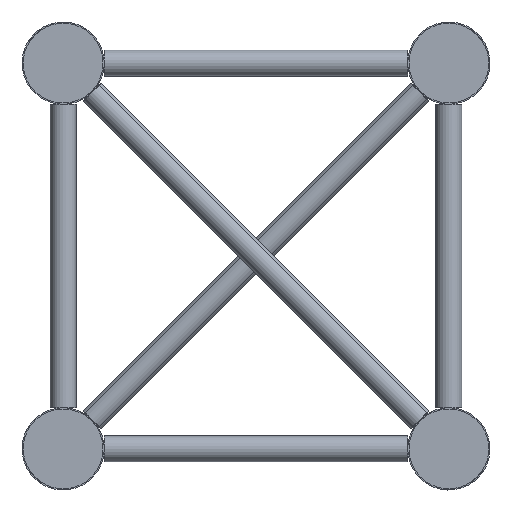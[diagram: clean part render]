
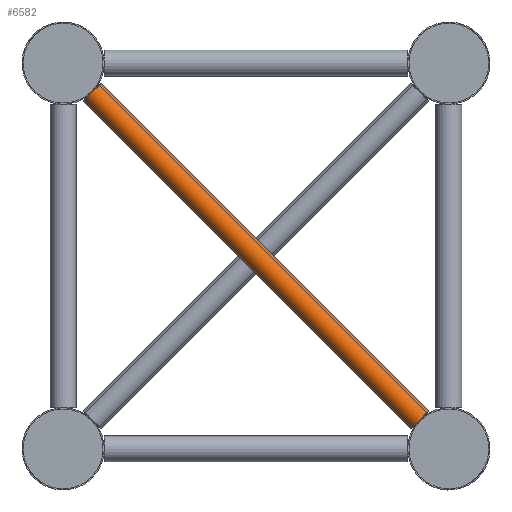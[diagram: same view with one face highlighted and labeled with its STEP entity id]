
A CAD part, left-side view. The second image highlights one B-rep face of the part: STEP entity #6582.
In plain terms, the highlighted cylindrical face has radius 8 mm (diameter 16 mm), a full revolution.
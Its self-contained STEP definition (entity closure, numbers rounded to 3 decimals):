
#359=B_SPLINE_CURVE_WITH_KNOTS('',3,(#10532,#10533,#10534,#10535,#10536,
#10537),.UNSPECIFIED.,.F.,.F.,(4,2,4),(1.187,1.214,
1.242),.UNSPECIFIED.);
#361=B_SPLINE_CURVE_WITH_KNOTS('',3,(#10550,#10551,#10552,#10553,#10554,
#10555),.UNSPECIFIED.,.F.,.F.,(4,2,4),(3.616,3.643,
3.67),.UNSPECIFIED.);
#370=B_SPLINE_CURVE_WITH_KNOTS('',3,(#10754,#10755,#10756,#10757,#10758,
#10759),.UNSPECIFIED.,.F.,.F.,(4,2,4),(1.187,1.214,
1.242),.UNSPECIFIED.);
#371=B_SPLINE_CURVE_WITH_KNOTS('',3,(#10763,#10764,#10765,#10766,#10767,
#10768),.UNSPECIFIED.,.F.,.F.,(4,2,4),(3.616,3.643,
3.67),.UNSPECIFIED.);
#830=CYLINDRICAL_SURFACE('',#7160,8.);
#1052=FACE_BOUND('',#1964,.T.);
#1341=FACE_OUTER_BOUND('',#1963,.T.);
#1963=EDGE_LOOP('',(#4260,#4261,#4262,#4263));
#1964=EDGE_LOOP('',(#4264,#4265,#4266,#4267));
#2661=CIRCLE('',#7159,8.);
#2662=CIRCLE('',#7161,8.);
#2663=CIRCLE('',#7162,8.);
#2664=CIRCLE('',#7163,8.);
#2901=VERTEX_POINT('',#10529);
#2902=VERTEX_POINT('',#10531);
#2905=VERTEX_POINT('',#10547);
#2906=VERTEX_POINT('',#10549);
#2966=VERTEX_POINT('',#10752);
#2967=VERTEX_POINT('',#10753);
#2968=VERTEX_POINT('',#10760);
#2969=VERTEX_POINT('',#10762);
#3365=EDGE_CURVE('',#2902,#2901,#359,.T.);
#3369=EDGE_CURVE('',#2906,#2905,#361,.T.);
#3409=EDGE_CURVE('',#2901,#2906,#2661,.T.);
#3410=EDGE_CURVE('',#2966,#2967,#370,.T.);
#3411=EDGE_CURVE('',#2967,#2968,#2662,.T.);
#3412=EDGE_CURVE('',#2968,#2969,#371,.T.);
#3413=EDGE_CURVE('',#2969,#2966,#2663,.T.);
#3414=EDGE_CURVE('',#2905,#2902,#2664,.T.);
#4260=ORIENTED_EDGE('',*,*,#3410,.T.);
#4261=ORIENTED_EDGE('',*,*,#3411,.T.);
#4262=ORIENTED_EDGE('',*,*,#3412,.T.);
#4263=ORIENTED_EDGE('',*,*,#3413,.T.);
#4264=ORIENTED_EDGE('',*,*,#3365,.T.);
#4265=ORIENTED_EDGE('',*,*,#3409,.T.);
#4266=ORIENTED_EDGE('',*,*,#3369,.T.);
#4267=ORIENTED_EDGE('',*,*,#3414,.T.);
#6582=ADVANCED_FACE('',(#1341,#1052),#830,.T.);
#7159=AXIS2_PLACEMENT_3D('',#10750,#8319,#8320);
#7160=AXIS2_PLACEMENT_3D('',#10751,#8321,#8322);
#7161=AXIS2_PLACEMENT_3D('',#10761,#8323,#8324);
#7162=AXIS2_PLACEMENT_3D('',#10769,#8325,#8326);
#7163=AXIS2_PLACEMENT_3D('',#10770,#8327,#8328);
#8319=DIRECTION('center_axis',(0.,-0.707,
-0.707));
#8320=DIRECTION('ref_axis',(0.,0.707,-0.707));
#8321=DIRECTION('center_axis',(0.,0.707,
0.707));
#8322=DIRECTION('ref_axis',(0.,0.707,-0.707));
#8323=DIRECTION('center_axis',(0.,0.707,
0.707));
#8324=DIRECTION('ref_axis',(0.,0.707,-0.707));
#8325=DIRECTION('center_axis',(0.,0.707,
0.707));
#8326=DIRECTION('ref_axis',(0.,0.707,-0.707));
#8327=DIRECTION('center_axis',(0.,-0.707,
-0.707));
#8328=DIRECTION('ref_axis',(0.,0.707,-0.707));
#10529=CARTESIAN_POINT('',(67.995,220.776,-17.836));
#10531=CARTESIAN_POINT('',(67.995,221.164,-18.224));
#10532=CARTESIAN_POINT('Ctrl Pts',(67.995,221.164,-18.224));
#10533=CARTESIAN_POINT('Ctrl Pts',(67.998,221.098,-18.16));
#10534=CARTESIAN_POINT('Ctrl Pts',(68.,221.033,-18.096));
#10535=CARTESIAN_POINT('Ctrl Pts',(68.,220.904,-17.967));
#10536=CARTESIAN_POINT('Ctrl Pts',(67.998,220.84,-17.902));
#10537=CARTESIAN_POINT('Ctrl Pts',(67.995,220.776,-17.836));
#10547=CARTESIAN_POINT('',(52.005,221.164,-18.224));
#10549=CARTESIAN_POINT('',(52.005,220.776,-17.836));
#10550=CARTESIAN_POINT('Ctrl Pts',(52.005,220.776,-17.836));
#10551=CARTESIAN_POINT('Ctrl Pts',(52.002,220.84,-17.902));
#10552=CARTESIAN_POINT('Ctrl Pts',(52.,220.904,-17.967));
#10553=CARTESIAN_POINT('Ctrl Pts',(52.,221.033,-18.096));
#10554=CARTESIAN_POINT('Ctrl Pts',(52.002,221.098,-18.16));
#10555=CARTESIAN_POINT('Ctrl Pts',(52.005,221.164,-18.224));
#10750=CARTESIAN_POINT('Origin',(60.,220.97,-18.03));
#10751=CARTESIAN_POINT('Origin',(60.,119.5,-119.5));
#10752=CARTESIAN_POINT('',(52.005,18.224,-221.164));
#10753=CARTESIAN_POINT('',(52.005,17.836,-220.776));
#10754=CARTESIAN_POINT('Ctrl Pts',(52.005,18.224,-221.164));
#10755=CARTESIAN_POINT('Ctrl Pts',(52.002,18.16,-221.098));
#10756=CARTESIAN_POINT('Ctrl Pts',(52.,18.096,-221.033));
#10757=CARTESIAN_POINT('Ctrl Pts',(52.,17.967,-220.904));
#10758=CARTESIAN_POINT('Ctrl Pts',(52.002,17.902,-220.84));
#10759=CARTESIAN_POINT('Ctrl Pts',(52.005,17.836,-220.776));
#10760=CARTESIAN_POINT('',(67.995,17.836,-220.776));
#10761=CARTESIAN_POINT('Origin',(60.,18.03,-220.97));
#10762=CARTESIAN_POINT('',(67.995,18.224,-221.164));
#10763=CARTESIAN_POINT('Ctrl Pts',(67.995,17.836,-220.776));
#10764=CARTESIAN_POINT('Ctrl Pts',(67.998,17.902,-220.84));
#10765=CARTESIAN_POINT('Ctrl Pts',(68.,17.967,-220.904));
#10766=CARTESIAN_POINT('Ctrl Pts',(68.,18.096,-221.033));
#10767=CARTESIAN_POINT('Ctrl Pts',(67.998,18.16,-221.098));
#10768=CARTESIAN_POINT('Ctrl Pts',(67.995,18.224,-221.164));
#10769=CARTESIAN_POINT('Origin',(60.,18.03,-220.97));
#10770=CARTESIAN_POINT('Origin',(60.,220.97,-18.03));
